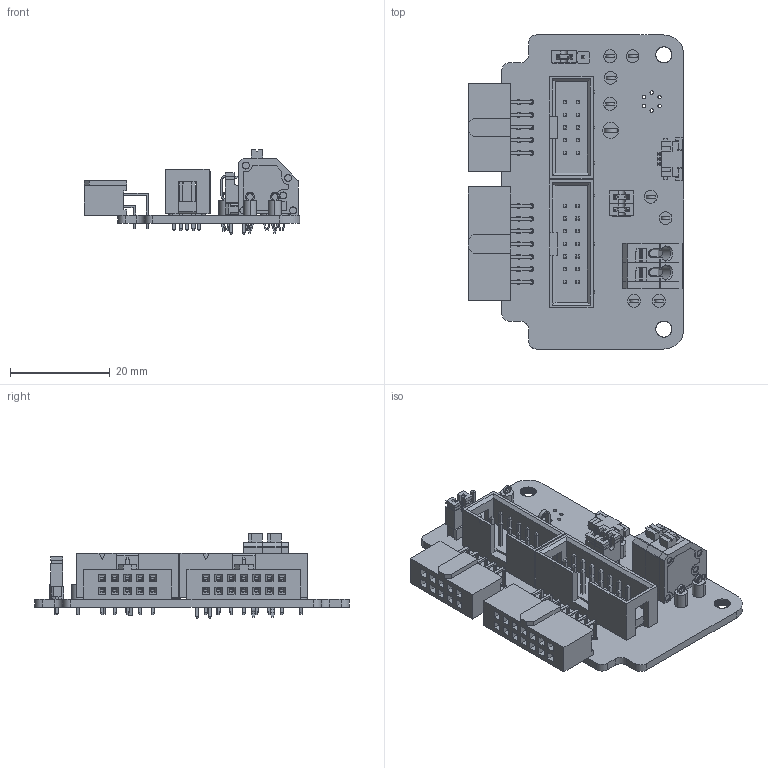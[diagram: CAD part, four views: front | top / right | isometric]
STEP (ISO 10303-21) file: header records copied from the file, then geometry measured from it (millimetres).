
FILE_DESCRIPTION(('Open CASCADE Model'),'2;1');
FILE_NAME('Open CASCADE Shape Model','2024-10-04T16:14:28',('Author'),( 'Open CASCADE'),'Open CASCADE STEP processor 7.5','Open CASCADE 7.5' ,'Unknown');
FILE_SCHEMA(('AUTOMOTIVE_DESIGN { 1 0 10303 214 1 1 1 1 }'));
Length unit declared in the file: millimetre
Products named in the file (53): PCB; Board; Open CASCADE STEP translator 7.5 1.1.1; TP5; keystone-PN5011; TP4; keystone-PN5000; X1; SFH11-_ _ _C-D07-RA-_ _; X6; 691412320002 (rev1); MRT24P3.81V01_SX1; MRT24P3.81V01_CNT5; MRT24P3.81V01_CNT4; X5; DS1013-10SSiB; body; pin; X4; SFH11-_ _ _C-D05-RA-_ _; X3; 61300311121; 6130xx11121_PIN; J1; Jumper_C02SXGN-RC; X9; ssfv6r_2stlf; X7; 68602-104HLF--3DModel-STEP-533217; 67997-110HLF_ASM_1_ASM; 93190-001_AF0_1; 77310-116LF_1; J3; J2; X2; DS1013-14SSiB; TP1; keystone-PN5119; TP9; keystone-PN5117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
Assembly tree (81 placements, depth 5):
  PCB
    Board
      Open CASCADE STEP translator 7.5 1.1.1
    TP5
      keystone-PN5011
    TP4
      keystone-PN5000
    X1
      SFH11-_ _ _C-D07-RA-_ _
    X6
      691412320002 (rev1)
        MRT24P3.81V01_SX1
        MRT24P3.81V01_CNT5
        MRT24P3.81V01_CNT4
    X5
      DS1013-10SSiB
        body
        pin  x10
    X4
      SFH11-_ _ _C-D05-RA-_ _
    X3
      61300311121
        61300311121
        6130xx11121_PIN  x3
    J1
      Jumper_C02SXGN-RC
    X9
      ssfv6r_2stlf
    X7
      68602-104HLF--3DModel-STEP-533217
        67997-110HLF_ASM_1_ASM
          93190-001_AF0_1
          77310-116LF_1  x4
    J3
      Jumper_C02SXGN-RC
    J2
      Jumper_C02SXGN-RC
    X2
      DS1013-14SSiB
        body
        pin  x14
    TP1
      keystone-PN5119
    TP9
      keystone-PN5117
    TP8
      keystone-PN5003
    TP7
      keystone-PN5118
    TP6
      keystone-PN5116
    TP3
      keystone-PN5115
    TP2
      keystone-PN5004
Bounding box: 43.22 x 63 x 17.01 mm (x, y, z)
Volume: 8609.7 mm3; surface area: 14991.4 mm2
Topology: 86 solids, 86 shells, 3798 faces, 10127 edges, 6506 vertices
Faces by surface type: plane 3027, cylinder 720, torus 18, revolution 12, sphere 12, cone 9
Full cylindrical faces by diameter (mm): 0.7 x6, 1 x62, 1.1 x3, 1.6 x1
Entity records: 105245 total; most frequent: CARTESIAN_POINT 17425, ORIENTED_EDGE 16958, DIRECTION 16186, EDGE_CURVE 8479, LINE 7100, VECTOR 7100, VERTEX_POINT 5510, AXIS2_PLACEMENT_3D 4537
